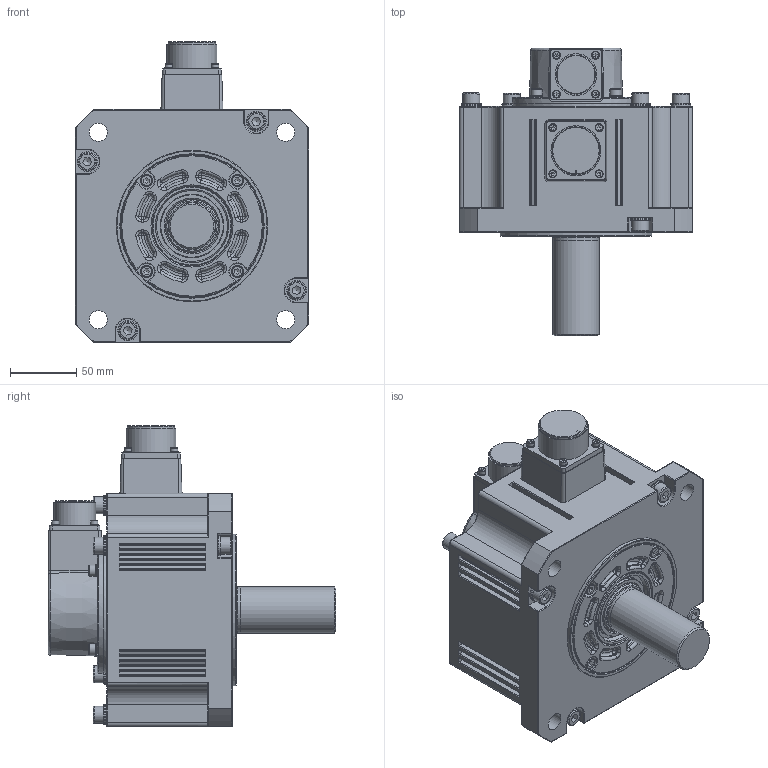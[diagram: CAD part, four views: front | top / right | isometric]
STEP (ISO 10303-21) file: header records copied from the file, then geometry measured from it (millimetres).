
FILE_DESCRIPTION((''),'2;1');
FILE_NAME('C:\Documents and Settings\11644\桌面\SME-M200.stp','2016-07-15T18:45:55',('11644'),(''),'Autodesk Inventor 2008','Autodesk Inventor 2008','');
FILE_SCHEMA(('AUTOMOTIVE_DESIGN { 1 0 10303 214 1 1 1 1 }'));
Length unit declared in the file: millimetre
Products named in the file (2): SME-M200; 零件889_1
Assembly tree (1 placements, depth 2):
  SME-M200
    零件889_1
Bounding box: 176 x 217 x 227.3 mm (x, y, z)
Volume: 3051621.9 mm3; surface area: 189554.7 mm2
Topology: 1 solids, 1 shells, 953 faces, 2233 edges, 1357 vertices
Faces by surface type: plane 369, cylinder 315, torus 146, cone 60, bspline 55, sphere 8
Full cylindrical faces by diameter (mm): 5.5 x8, 6 x8, 8.5 x8, 9 x8, 13 x8, 13.5 x4, 15 x8, 29.5 x1, 31.5 x1, 34.8 x1, 35 x1, 36 x1, 37.7 x1, 40 x1, 47.112 x2, 55.504 x1, 60 x1, 95.8 x1, 108 x1, 114.3 x1
Entity records: 29240 total; most frequent: CARTESIAN_POINT 7286, DIRECTION 4504, ORIENTED_EDGE 4010, EDGE_CURVE 2005, AXIS2_PLACEMENT_3D 1782, VERTEX_POINT 1325, EDGE_LOOP 1232, STYLED_ITEM 954
